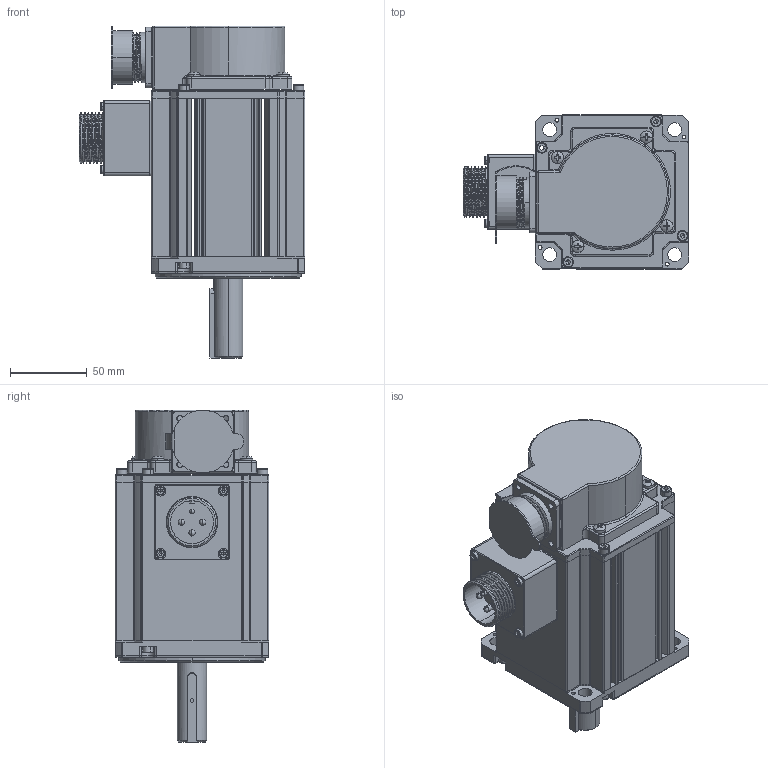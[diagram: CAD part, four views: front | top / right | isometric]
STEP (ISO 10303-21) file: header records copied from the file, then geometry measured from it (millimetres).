
FILE_DESCRIPTION (( 'STEP AP203' ), '1' );
FILE_NAME ('WF100ST-M04830GYA5-B1軞蚾-YD28粣19.STEP', '2024-01-30T08:51:56', ( 'lvbing' ), ( 'WG' ), 'SwSTEP 2.0', 'SolidWorks 2018', '' );
FILE_SCHEMA (( 'CONFIG_CONTROL_DESIGN' ));
Length unit declared in the file: millimetre
Products named in the file (2): WF100ST-M04830GYA5-B1軞蚾-YD28粣19
Bounding box: 147 x 100 x 216 mm (x, y, z)
Surface area: 123626.2 mm2 (no closed solid volume)
Topology: 0 solids, 52 shells, 988 faces, 2822 edges, 1837 vertices
Faces by surface type: cylinder 420, plane 332, torus 138, cone 49, bspline 31, sphere 18
Entity records: 35104 total; most frequent: CARTESIAN_POINT 9353, DIRECTION 5777, ORIENTED_EDGE 4770, EDGE_CURVE 2777, AXIS2_PLACEMENT_3D 2227, VERTEX_POINT 1829, LINE 1323, VECTOR 1323
